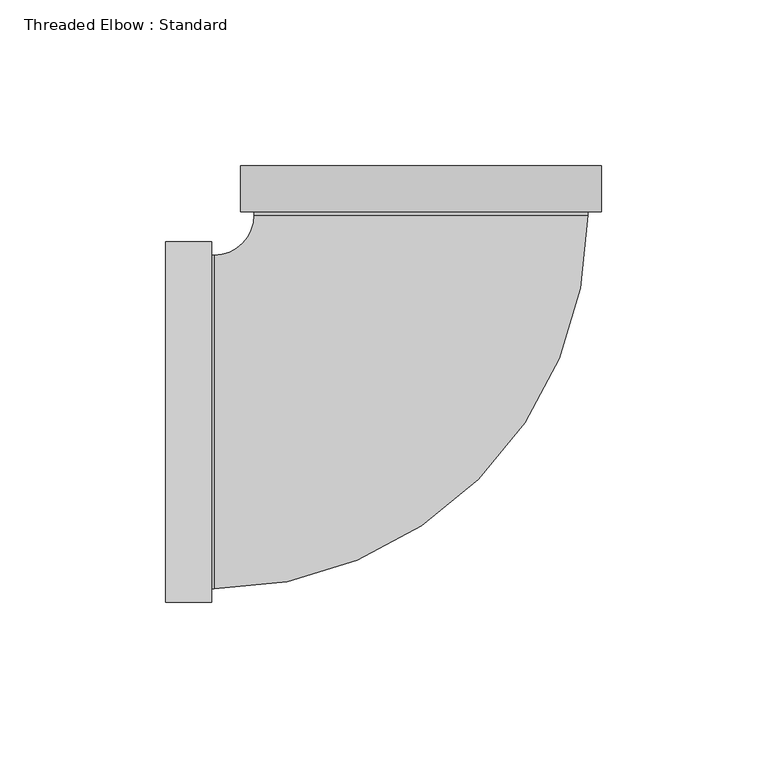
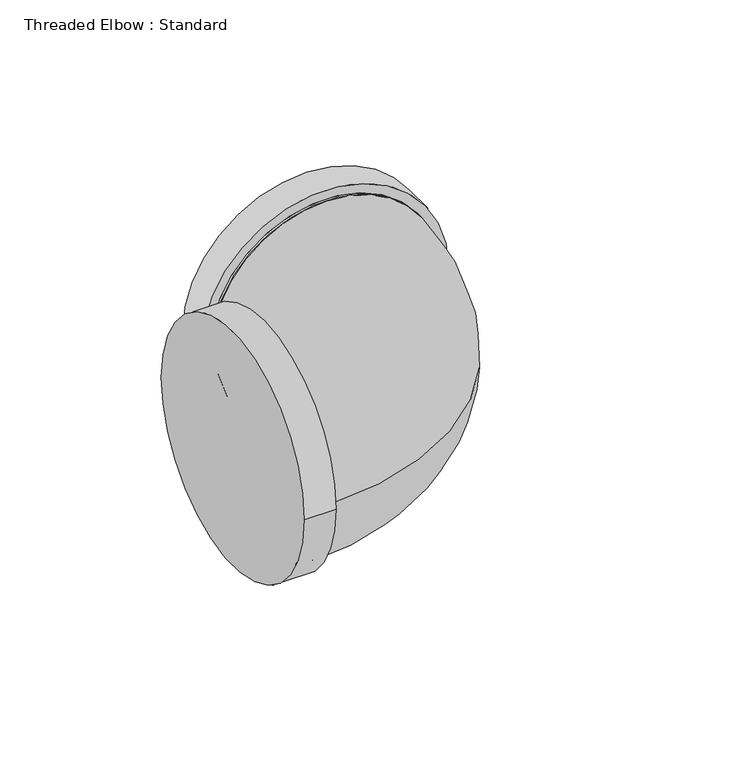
"""IFC4 building model written with IfcOpenShell, lengths in millimetres: pipe fitting geometry, Threaded Elbow : Standard."""

from ifc_helpers import new_model, si_unit, point, frame, origin, place, context, project, spatial, circle_curve, ellipse_curve, trimmed, source, transform, mapped, element, save
from ifc_brep_helpers import plane_surface, cylinder_surface, revolved_surface, advanced_brep


def threaded_elbow_standard_4a24fb9d(model_context):
    return source(origin(), model_context, "Body", "AdvancedBrep", [
        advanced_brep(
        [(54.4, 63.3993437, 0.0), (-54.4, 63.3993437, 0.0), (-50.32, 63.3993437, 0.0), (50.32, 63.3993437, 0.0), (54.4, 77.2993437, 0.0), (-54.4, 77.2993437, 0.0), (50.32, 62.4031875, 0.0), (-50.32, 62.4031875, 0.0)],
        [
            (0, 1, circle_curve(frame((0.0, 63.3993437, 0.0), z_axis=(0.0, -1.0, 0.0), x_axis=(-1.0, 0.0, 0.0)), 54.4)),
            (1, 0, circle_curve(frame((0.0, 63.3993437, 0.0), z_axis=(0.0, -1.0, 0.0), x_axis=(-1.0, 0.0, 0.0)), 54.4)),
            (2, 3, circle_curve(frame((0.0, 63.3993437, 0.0), z_axis=(0.0, 1.0, 0.0), x_axis=(-1.0, 0.0, 0.0)), 50.32)),
            (3, 2, circle_curve(frame((0.0, 63.3993437, 0.0), z_axis=(0.0, 1.0, 0.0), x_axis=(-1.0, 0.0, 0.0)), 50.32)),
            (4, 5, circle_curve(frame((0.0, 77.2993437, 0.0), z_axis=(0.0, 1.0, 0.0), x_axis=(-1.0, 0.0, 0.0)), 54.4)),
            (5, 4, circle_curve(frame((0.0, 77.2993437, 0.0), z_axis=(0.0, 1.0, 0.0), x_axis=(-1.0, 0.0, 0.0)), 54.4)),
            (0, 4),
            (5, 1),
            (6, 7, circle_curve(frame((0.0, 62.4031875, 0.0), z_axis=(0.0, -1.0, 0.0), x_axis=(-1.0, 0.0, 0.0)), 50.32)),
            (7, 6, circle_curve(frame((0.0, 62.4031875, 0.0), z_axis=(0.0, -1.0, 0.0), x_axis=(-1.0, 0.0, 0.0)), 50.32)),
            (6, 3),
            (2, 7),
        ],
        [
            plane_surface(frame((0.0, 63.3993437, 0.0), z_axis=(0.0, -1.0, 0.0), x_axis=(0.0, 0.0, 1.0))),
            plane_surface(frame((0.0, 77.2993437, 0.0), z_axis=(0.0, 1.0, 0.0), x_axis=(0.0, 0.0, 1.0))),
            cylinder_surface(frame((0.0, 63.3993437, 0.0), z_axis=(0.0, -1.0, 0.0), x_axis=(-1.0, 0.0, 0.0)), 54.4),
            plane_surface(frame((0.0, 62.4031875, 0.0), z_axis=(0.0, -1.0, 0.0), x_axis=(0.0, 0.0, 1.0))),
            cylinder_surface(frame((0.0, 62.4031875, 0.0), z_axis=(0.0, -1.0, 0.0), x_axis=(-1.0, 0.0, 0.0)), 50.32),
        ],
        [
            (0, [[1, 2], [3, 4]]),
            (1, [[5, 6]]),
            (2, [[-1, 7, -6, 8]]),
            (2, [[-2, -8, -5, -7]]),
            (3, [[9, 10]]),
            (4, [[-9, 11, -3, 12]]),
            (4, [[-10, -12, -4, -11]]),
        ],
    ),
        advanced_brep(
        [(-63.1969375, 54.4, 0.0), (-63.1969375, -54.4, 0.0), (-63.1969375, -50.32, 0.0), (-63.1969375, 50.32, 0.0), (-77.0969375, 54.4, 0.0), (-77.0969375, -54.4, 0.0), (-62.4031875, 50.32, 0.0), (-62.4031875, -50.32, 0.0)],
        [
            (0, 1, circle_curve(frame((-63.1969375, 0.0, 0.0), z_axis=(1.0, 0.0, 0.0), x_axis=(0.0, -1.0, 0.0)), 54.4)),
            (1, 0, circle_curve(frame((-63.1969375, 0.0, 0.0), z_axis=(1.0, 0.0, 0.0), x_axis=(0.0, -1.0, 0.0)), 54.4)),
            (2, 3, circle_curve(frame((-63.1969375, 0.0, 0.0), z_axis=(-1.0, 0.0, 0.0), x_axis=(0.0, -1.0, 0.0)), 50.32)),
            (3, 2, circle_curve(frame((-63.1969375, 0.0, 0.0), z_axis=(-1.0, 0.0, 0.0), x_axis=(0.0, -1.0, 0.0)), 50.32)),
            (4, 5, circle_curve(frame((-77.0969375, 0.0, 0.0), z_axis=(-1.0, 0.0, 0.0), x_axis=(0.0, -1.0, 0.0)), 54.4)),
            (5, 4, circle_curve(frame((-77.0969375, 0.0, 0.0), z_axis=(-1.0, 0.0, 0.0), x_axis=(0.0, -1.0, 0.0)), 54.4)),
            (0, 4),
            (5, 1),
            (6, 7, circle_curve(frame((-62.4031875, 0.0, 0.0), z_axis=(1.0, 0.0, 0.0), x_axis=(0.0, -1.0, 0.0)), 50.32)),
            (7, 6, circle_curve(frame((-62.4031875, 0.0, 0.0), z_axis=(1.0, 0.0, 0.0), x_axis=(0.0, -1.0, 0.0)), 50.32)),
            (6, 3),
            (2, 7),
        ],
        [
            plane_surface(frame((-63.1969375, 0.0, 0.0), z_axis=(1.0, 0.0, 0.0), x_axis=(0.0, 0.0, 1.0))),
            plane_surface(frame((-77.0969375, 0.0, 0.0), z_axis=(-1.0, 0.0, 0.0), x_axis=(0.0, 0.0, 1.0))),
            cylinder_surface(frame((-63.1969375, 0.0, 0.0), z_axis=(1.0, 0.0, 0.0), x_axis=(0.0, -1.0, 0.0)), 54.4),
            plane_surface(frame((-62.4031875, 0.0, 0.0), z_axis=(1.0, 0.0, 0.0), x_axis=(0.0, 0.0, 1.0))),
            cylinder_surface(frame((-62.4031875, 0.0, 0.0), z_axis=(1.0, 0.0, 0.0), x_axis=(0.0, -1.0, 0.0)), 50.32),
        ],
        [
            (0, [[1, 2], [3, 4]]),
            (1, [[5, 6]]),
            (2, [[-1, 7, -6, 8]]),
            (2, [[-2, -8, -5, -7]]),
            (3, [[9, 10]]),
            (4, [[-9, 11, -3, 12]]),
            (4, [[-10, -12, -4, -11]]),
        ],
    ),
        advanced_brep(
        [(-54.4, 77.2993437, 0.0), (54.4, 77.2993437, 0.0), (-54.4, 63.3993437, 0.0), (54.4, 63.3993437, 0.0), (-50.32, 63.3993437, 0.0), (50.32, 63.3993437, 0.0), (50.32, 62.4031875, 0.0), (-50.32, 62.4031875, 0.0)],
        [
            (0, 1, circle_curve(frame((0.0, 77.2993437, 0.0), z_axis=(0.0, 1.0, 0.0), x_axis=(1.0, 0.0, 0.0)), 54.4)),
            (1, 0, circle_curve(frame((0.0, 77.2993437, 0.0), z_axis=(0.0, 1.0, 0.0), x_axis=(1.0, 0.0, 0.0)), 54.4)),
            (2, 3, circle_curve(frame((0.0, 63.3993437, 0.0), z_axis=(0.0, -1.0, 0.0), x_axis=(1.0, 0.0, 0.0)), 54.4)),
            (3, 2, circle_curve(frame((0.0, 63.3993437, 0.0), z_axis=(0.0, -1.0, 0.0), x_axis=(1.0, 0.0, 0.0)), 54.4)),
            (4, 5, circle_curve(frame((0.0, 63.3993437, 0.0), z_axis=(0.0, 1.0, 0.0), x_axis=(-1.0, 0.0, 0.0)), 50.32)),
            (5, 4, circle_curve(frame((0.0, 63.3993437, 0.0), z_axis=(0.0, 1.0, 0.0), x_axis=(-1.0, 0.0, 0.0)), 50.32)),
            (0, 2),
            (3, 1),
            (6, 7, circle_curve(frame((0.0, 62.4031875, 0.0), z_axis=(0.0, -1.0, 0.0), x_axis=(-1.0, 0.0, 0.0)), 50.32)),
            (7, 6, circle_curve(frame((0.0, 62.4031875, 0.0), z_axis=(0.0, -1.0, 0.0), x_axis=(-1.0, 0.0, 0.0)), 50.32)),
            (6, 5),
            (4, 7),
        ],
        [
            plane_surface(frame((0.0, 77.2993437, 0.0), z_axis=(0.0, 1.0, 0.0), x_axis=(0.0, 0.0, 1.0))),
            plane_surface(frame((0.0, 63.3993437, 0.0), z_axis=(0.0, -1.0, 0.0), x_axis=(0.0, 0.0, 1.0))),
            cylinder_surface(frame((0.0, 77.2993437, 0.0), z_axis=(0.0, 1.0, 0.0), x_axis=(1.0, 0.0, 0.0)), 54.4),
            plane_surface(frame((0.0, 62.4031875, 0.0), z_axis=(0.0, -1.0, 0.0), x_axis=(0.0, 0.0, 1.0))),
            cylinder_surface(frame((0.0, 62.4031875, 0.0), z_axis=(0.0, -1.0, 0.0), x_axis=(-1.0, 0.0, 0.0)), 50.32),
        ],
        [
            (0, [[1, 2]]),
            (1, [[3, 4], [5, 6]]),
            (2, [[-1, 7, -4, 8]]),
            (2, [[-2, -8, -3, -7]]),
            (3, [[9, 10]]),
            (4, [[-9, 11, -5, 12]]),
            (4, [[-10, -12, -6, -11]]),
        ],
    ),
        advanced_brep(
        [(-63.1969375, -54.4, 0.0), (-63.1969375, 54.4, 0.0), (-63.1969375, -50.32, 0.0), (-63.1969375, 50.32, 0.0), (-77.0969375, -54.4, 0.0), (-77.0969375, 54.4, 0.0), (-62.4031875, 50.32, 0.0), (-62.4031875, -50.32, 0.0)],
        [
            (0, 1, circle_curve(frame((-63.1969375, 0.0, 0.0), z_axis=(1.0, 0.0, 0.0), x_axis=(0.0, 1.0, 0.0)), 54.4)),
            (1, 0, circle_curve(frame((-63.1969375, 0.0, 0.0), z_axis=(1.0, 0.0, 0.0), x_axis=(0.0, 1.0, 0.0)), 54.4)),
            (2, 3, circle_curve(frame((-63.1969375, 0.0, 0.0), z_axis=(-1.0, 0.0, 0.0), x_axis=(0.0, -1.0, 0.0)), 50.32)),
            (3, 2, circle_curve(frame((-63.1969375, 0.0, 0.0), z_axis=(-1.0, 0.0, 0.0), x_axis=(0.0, -1.0, 0.0)), 50.32)),
            (4, 5, circle_curve(frame((-77.0969375, 0.0, 0.0), z_axis=(-1.0, 0.0, 0.0), x_axis=(0.0, 1.0, 0.0)), 54.4)),
            (5, 4, circle_curve(frame((-77.0969375, 0.0, 0.0), z_axis=(-1.0, 0.0, 0.0), x_axis=(0.0, 1.0, 0.0)), 54.4)),
            (0, 4),
            (5, 1),
            (6, 7, circle_curve(frame((-62.4031875, 0.0, 0.0), z_axis=(1.0, 0.0, 0.0), x_axis=(0.0, -1.0, 0.0)), 50.32)),
            (7, 6, circle_curve(frame((-62.4031875, 0.0, 0.0), z_axis=(1.0, 0.0, 0.0), x_axis=(0.0, -1.0, 0.0)), 50.32)),
            (6, 3),
            (2, 7),
        ],
        [
            plane_surface(frame((-63.1969375, 54.4, 0.0), z_axis=(1.0, 0.0, 0.0), x_axis=(0.0, 0.0, 1.0))),
            plane_surface(frame((-77.0969375, 54.4, 0.0), z_axis=(-1.0, 0.0, 0.0), x_axis=(0.0, 0.0, -1.0))),
            cylinder_surface(frame((-77.0969375, 0.0, 0.0), z_axis=(1.0, 0.0, 0.0), x_axis=(0.0, 1.0, 0.0)), 54.4),
            plane_surface(frame((-62.4031875, 0.0, 0.0), z_axis=(1.0, 0.0, 0.0), x_axis=(0.0, 0.0, 1.0))),
            cylinder_surface(frame((-62.4031875, 0.0, 0.0), z_axis=(1.0, 0.0, 0.0), x_axis=(0.0, -1.0, 0.0)), 50.32),
        ],
        [
            (0, [[1, 2], [3, 4]]),
            (1, [[5, 6]]),
            (2, [[-1, 7, -6, 8]]),
            (2, [[-2, -8, -5, -7]]),
            (3, [[9, 10]]),
            (4, [[-9, 11, -3, 12]]),
            (4, [[-10, -12, -4, -11]]),
        ],
    ),
        advanced_brep(
        [(50.32, 62.4031875, 0.0), (-50.32, 62.4031875, 0.0), (-62.4031875, -50.32, 0.0), (-62.4031875, 50.32, 0.0)],
        [
            (0, 1, circle_curve(frame((0.0, 62.4031875, 0.0), z_axis=(0.0, 1.0, 0.0), x_axis=(-1.0, 0.0, 0.0)), 50.32)),
            (1, 0, circle_curve(frame((0.0, 62.4031875, 0.0), z_axis=(0.0, 1.0, 0.0), x_axis=(-1.0, 0.0, 0.0)), 50.32)),
            (2, 3, circle_curve(frame((-62.4031875, 0.0, 0.0), z_axis=(-1.0, 0.0, 0.0), x_axis=(0.0, 1.0, 0.0)), 50.32)),
            (3, 2, circle_curve(frame((-62.4031875, 0.0, 0.0), z_axis=(-1.0, 0.0, 0.0), x_axis=(0.0, 1.0, 0.0)), 50.32)),
            (3, 1, circle_curve(frame((-62.4031875, 62.4031875, 0.0), z_axis=(0.0, 0.0, 1.0), x_axis=(1.0, 0.0, 0.0)), 12.0831875)),
            (0, 2, circle_curve(frame((-62.4031875, 62.4031875, 0.0), z_axis=(0.0, 0.0, -1.0), x_axis=(1.0, 0.0, 0.0)), 112.7231875)),
        ],
        [
            plane_surface(frame((0.0, 62.4031875, 0.0), z_axis=(0.0, 1.0, 0.0), x_axis=(0.0, 0.0, -1.0))),
            plane_surface(frame((-62.4031875, 0.0, 0.0), z_axis=(-1.0, 0.0, 0.0), x_axis=(0.0, 0.0, -1.0))),
            revolved_surface(trimmed(ellipse_curve(frame((0.0, 62.4031875, 0.0), z_axis=(0.0, -1.0, 0.0), x_axis=(-1.0, 0.0, 0.0)), 50.32, 50.32), [point((-50.32, 62.4031875, 0.0))], [point((50.32, 62.4031875, 0.0))], True, "CARTESIAN"), (-62.4031875, 62.4031875, 0.0), (0.0, 0.0, 1.0)),
            revolved_surface(trimmed(ellipse_curve(frame((0.0, 62.4031875, 0.0), z_axis=(0.0, -1.0, 0.0), x_axis=(-1.0, 0.0, 0.0)), 50.32, 50.32), [point((50.32, 62.4031875, 0.0))], [point((-50.32, 62.4031875, 0.0))], True, "CARTESIAN"), (-62.4031875, 62.4031875, 0.0), (0.0, 0.0, 1.0)),
        ],
        [
            (0, [[1, 2]]),
            (1, [[3, 4]]),
            (2, [[-4, 5, -1, 6]]),
            (3, [[-3, -6, -2, -5]]),
        ],
    ),
        advanced_brep(
        [(50.32, 62.4031875, 0.0), (-50.32, 62.4031875, 0.0), (-62.4031875, -50.32, 0.0), (-62.4031875, 50.32, 0.0)],
        [
            (0, 1, circle_curve(frame((0.0, 62.4031875, 0.0), z_axis=(0.0, 1.0, 0.0), x_axis=(-1.0, 0.0, 0.0)), 50.32)),
            (1, 0, circle_curve(frame((0.0, 62.4031875, 0.0), z_axis=(0.0, 1.0, 0.0), x_axis=(-1.0, 0.0, 0.0)), 50.32)),
            (2, 3, circle_curve(frame((-62.4031875, 0.0, 0.0), z_axis=(-1.0, 0.0, 0.0), x_axis=(0.0, 1.0, 0.0)), 50.32)),
            (3, 2, circle_curve(frame((-62.4031875, 0.0, 0.0), z_axis=(-1.0, 0.0, 0.0), x_axis=(0.0, 1.0, 0.0)), 50.32)),
            (3, 1, circle_curve(frame((-62.4031875, 62.4031875, 0.0), z_axis=(0.0, 0.0, 1.0), x_axis=(1.0, 0.0, 0.0)), 12.0831875)),
            (0, 2, circle_curve(frame((-62.4031875, 62.4031875, 0.0), z_axis=(0.0, 0.0, -1.0), x_axis=(1.0, 0.0, 0.0)), 112.7231875)),
        ],
        [
            plane_surface(frame((0.0, 62.4031875, 0.0), z_axis=(0.0, 1.0, 0.0), x_axis=(0.0, 0.0, -1.0))),
            plane_surface(frame((-62.4031875, 0.0, 0.0), z_axis=(-1.0, 0.0, 0.0), x_axis=(0.0, 0.0, -1.0))),
            revolved_surface(trimmed(ellipse_curve(frame((0.0, 62.4031875, 0.0), z_axis=(0.0, -1.0, 0.0), x_axis=(-1.0, 0.0, 0.0)), 50.32, 50.32), [point((-50.32, 62.4031875, 0.0))], [point((50.32, 62.4031875, 0.0))], True, "CARTESIAN"), (-62.4031875, 62.4031875, 0.0), (0.0, 0.0, 1.0)),
            revolved_surface(trimmed(ellipse_curve(frame((0.0, 62.4031875, 0.0), z_axis=(0.0, -1.0, 0.0), x_axis=(-1.0, 0.0, 0.0)), 50.32, 50.32), [point((50.32, 62.4031875, 0.0))], [point((-50.32, 62.4031875, 0.0))], True, "CARTESIAN"), (-62.4031875, 62.4031875, 0.0), (0.0, 0.0, 1.0)),
        ],
        [
            (0, [[1, 2]]),
            (1, [[3, 4]]),
            (2, [[-4, 5, -1, 6]]),
            (3, [[-3, -6, -2, -5]]),
        ],
    ),
    ])


if __name__ == "__main__":
    model = new_model("IFC4")
    model_context = context("Model", 3, world=origin())
    ifc_project = project(units=[si_unit("LENGTHUNIT", "METRE", prefix="MILLI")], contexts=[model_context])
    site = spatial("IfcSite", under=ifc_project)
    building = spatial("IfcBuilding", under=site)
    placement = place(None, origin())
    threaded_elbow_standard_shape = threaded_elbow_standard_4a24fb9d(model_context)
    element("IfcPipeFitting", 1, ObjectType="Threaded Elbow : Standard", at=placement, inside=building, context=model_context, shape_type="MappedRepresentation", body=[
        mapped(threaded_elbow_standard_shape, transform((0.0, 0.0, 0.0), x_axis=(1.0, 0.0, 0.0), y_axis=(0.0, 1.0, 0.0), z_axis=(0.0, 0.0, 1.0))),
    ])
    save(model, "model.ifc")
